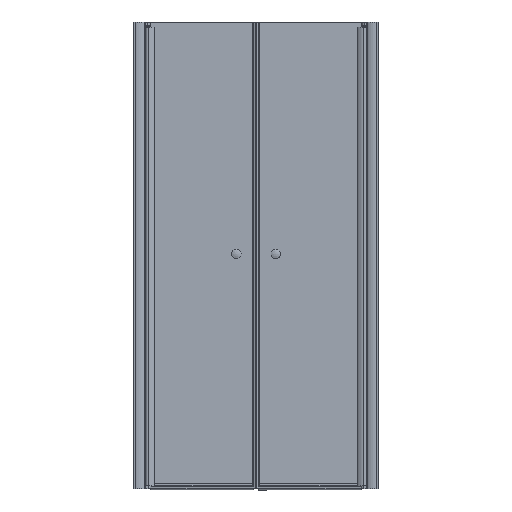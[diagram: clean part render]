
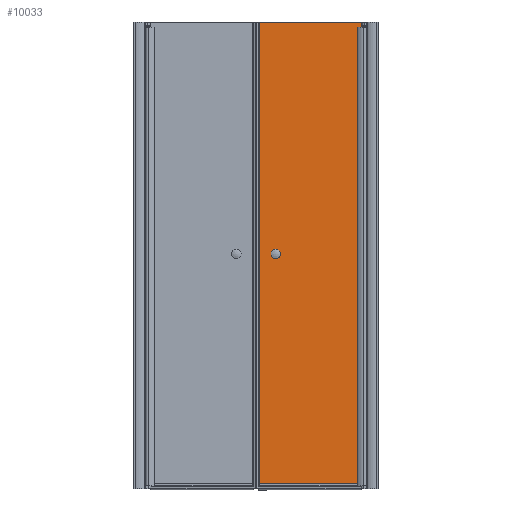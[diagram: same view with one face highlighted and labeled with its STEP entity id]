
A CAD part, front view. The second image highlights one B-rep face of the part: STEP entity #10033.
In plain terms, the highlighted planar face has unit normal (0, -1, 0).
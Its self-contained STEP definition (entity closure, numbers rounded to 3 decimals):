
#532=LINE($,#15605,#1550);
#534=LINE($,#15610,#1552);
#551=LINE($,#15651,#1569);
#552=LINE($,#15653,#1570);
#553=LINE($,#15655,#1571);
#554=LINE($,#15656,#1572);
#1550=VECTOR($,#12481,1877.038);
#1552=VECTOR($,#12487,405.226);
#1569=VECTOR($,#12538,1856.038);
#1570=VECTOR($,#12539,14.774);
#1571=VECTOR($,#12540,21.);
#1572=VECTOR($,#12541,420.);
#2546=FACE_OUTER_BOUND($,#3063,.T.);
#3063=EDGE_LOOP($,(#7253,#7254,#7255,#7256,#7257,#7258));
#4231=VERTEX_POINT($,#15602);
#4232=VERTEX_POINT($,#15604);
#4233=VERTEX_POINT($,#15608);
#4240=VERTEX_POINT($,#15650);
#4241=VERTEX_POINT($,#15652);
#4242=VERTEX_POINT($,#15654);
#5357=EDGE_CURVE($,#4231,#4232,#532,.T.);
#5360=EDGE_CURVE($,#4231,#4233,#534,.T.);
#5379=EDGE_CURVE($,#4240,#4233,#551,.T.);
#5380=EDGE_CURVE($,#4240,#4241,#552,.T.);
#5381=EDGE_CURVE($,#4241,#4242,#553,.T.);
#5382=EDGE_CURVE($,#4232,#4242,#554,.T.);
#7253=ORIENTED_EDGE($,*,*,#5360,.T.);
#7254=ORIENTED_EDGE($,*,*,#5379,.F.);
#7255=ORIENTED_EDGE($,*,*,#5380,.T.);
#7256=ORIENTED_EDGE($,*,*,#5381,.T.);
#7257=ORIENTED_EDGE($,*,*,#5382,.F.);
#7258=ORIENTED_EDGE($,*,*,#5357,.F.);
#9156=PLANE($,#10737);
#10033=ADVANCED_FACE($,(#2546),#9156,.T.);
#10737=AXIS2_PLACEMENT_3D($,#15649,#12536,#12537);
#12481=DIRECTION($,(0.,0.,1.));
#12487=DIRECTION($,(1.,0.,0.));
#12536=DIRECTION('center_axis',(0.,-1.,0.));
#12537=DIRECTION('ref_axis',(1.,0.,0.));
#12538=DIRECTION($,(0.,0.,-1.));
#12539=DIRECTION($,(1.,0.,0.));
#12540=DIRECTION($,(0.,0.,1.));
#12541=DIRECTION($,(1.,0.,0.));
#15602=CARTESIAN_POINT('',(1092.686,11.606,-492.093));
#15604=CARTESIAN_POINT('',(1092.686,11.606,1384.944));
#15605=CARTESIAN_POINT($,(1092.686,11.606,-502.056));
#15608=CARTESIAN_POINT('',(1497.912,11.606,-492.093));
#15610=CARTESIAN_POINT($,(1092.686,11.606,-492.093));
#15649=CARTESIAN_POINT('Origin',(1092.686,11.606,-502.056));
#15650=CARTESIAN_POINT('',(1497.912,11.606,1363.944));
#15651=CARTESIAN_POINT($,(1497.912,11.606,1363.944));
#15652=CARTESIAN_POINT('',(1512.686,11.606,1363.944));
#15653=CARTESIAN_POINT($,(1303.899,11.606,1363.944));
#15654=CARTESIAN_POINT('',(1512.686,11.606,1384.944));
#15655=CARTESIAN_POINT($,(1512.686,11.606,-502.056));
#15656=CARTESIAN_POINT($,(1092.686,11.606,1384.944));
